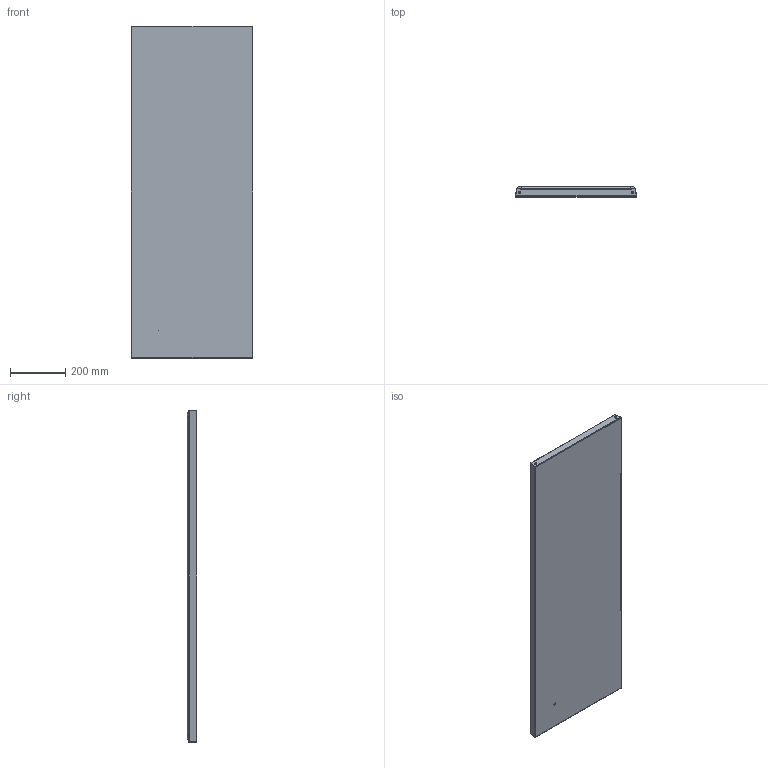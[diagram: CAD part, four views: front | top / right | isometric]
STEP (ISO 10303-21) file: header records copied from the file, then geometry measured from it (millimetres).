
FILE_DESCRIPTION (( 'STEP AP203' ), '1' );
FILE_NAME ('BDPS12_V0.STEP', '2018-04-02T07:18:36', ( '' ), ( '' ), 'SwSTEP 2.0', 'SolidWorks 2017', '' );
FILE_SCHEMA (( 'CONFIG_CONTROL_DESIGN' ));
Length unit declared in the file: millimetre
Products named in the file (13): BDPS12_V0; USZCZELKA_BDP_12_1; 7-09017-04-3_1; NITONAKRETKA-M6-PRZELOT_5; TRZPIEN_M8X15_5; 7-09017-04-3__ASM_1
Assembly tree (8 placements, depth 3):
  BDPS12_V0
    7-09017-04-3__ASM_1
      7-09017-04-3_1
      TRZPIEN_M8X15_5
    USZCZELKA_BDP_12_1
    NITONAKRETKA-M6-PRZELOT_5  x4
  USZCZELKA_BDP_12_1
  7-09017-04-3_1
  NITONAKRETKA-M6-PRZELOT_5
  TRZPIEN_M8X15_5
Bounding box: 440.8 x 35 x 1200 mm (x, y, z)
Volume: 1506681.4 mm3; surface area: 1464747.9 mm2
Topology: 7 solids, 7 shells, 202 faces, 470 edges, 294 vertices
Faces by surface type: plane 82, cylinder 78, bspline 24, cone 18
Entity records: 5778 total; most frequent: CARTESIAN_POINT 1156, DIRECTION 740, ORIENTED_EDGE 688, EDGE_CURVE 344, AXIS2_PLACEMENT_3D 268, VERTEX_POINT 216, LINE 204, VECTOR 204
